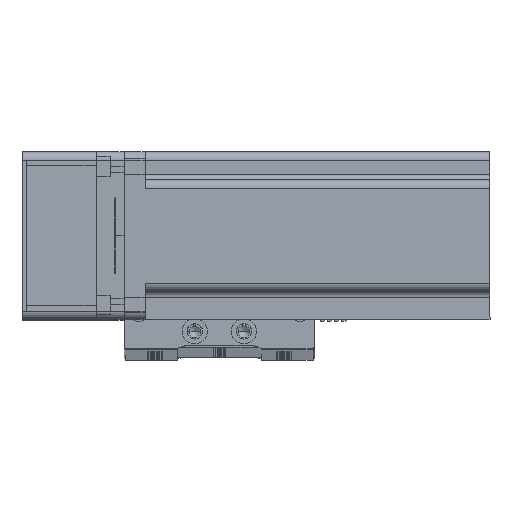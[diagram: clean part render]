
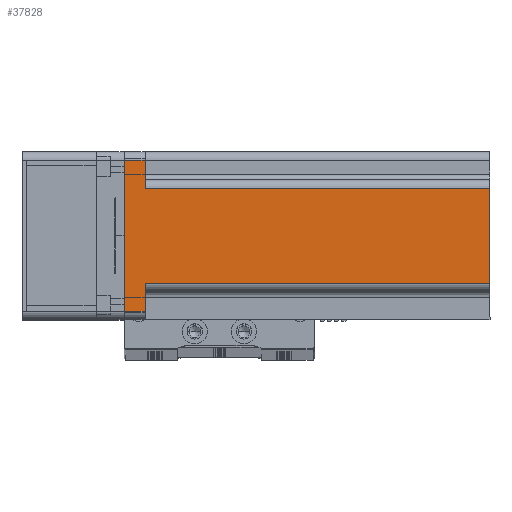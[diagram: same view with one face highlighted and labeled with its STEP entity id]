
A CAD part, top view. The second image highlights one B-rep face of the part: STEP entity #37828.
In plain terms, the highlighted planar face has unit normal (0, 0, 1) as drawn and (0, 1, 0) by its records, which use the part's own axes.
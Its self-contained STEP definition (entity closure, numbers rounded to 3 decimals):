
#1622 = EDGE_CURVE ( 'NONE', #65897, #67307, #57965, .T. ) ;
#1678 = CARTESIAN_POINT ( 'NONE',  ( 27., 30., 130.7 ) ) ;
#3140 = CARTESIAN_POINT ( 'NONE',  ( 17., 30., 7.5 ) ) ;
#3534 = CARTESIAN_POINT ( 'NONE',  ( -17., 30., 130.7 ) ) ;
#5836 = VECTOR ( 'NONE', #56339, 1000. ) ;
#6994 = LINE ( 'NONE', #60181, #21523 ) ;
#9557 = FACE_OUTER_BOUND ( 'NONE', #37642, .T. ) ;
#9770 = CARTESIAN_POINT ( 'NONE',  ( 17., 30., 130.7 ) ) ;
#10775 = LINE ( 'NONE', #57510, #38185 ) ;
#11341 = LINE ( 'NONE', #9770, #53376 ) ;
#11693 = VECTOR ( 'NONE', #41879, 1000. ) ;
#12199 = EDGE_CURVE ( 'NONE', #67307, #25554, #10775, .T. ) ;
#12416 = VERTEX_POINT ( 'NONE', #59836 ) ;
#12562 = ORIENTED_EDGE ( 'NONE', *, *, #37884, .T. ) ;
#13513 = DIRECTION ( 'NONE',  ( -1., 0., 0. ) ) ;
#15535 = VECTOR ( 'NONE', #58417, 1000. ) ;
#17674 = CARTESIAN_POINT ( 'NONE',  ( 30., 30., 130.7 ) ) ;
#18053 = CARTESIAN_POINT ( 'NONE',  ( -27., 30., 7.5 ) ) ;
#18656 = ORIENTED_EDGE ( 'NONE', *, *, #70807, .T. ) ;
#19249 = PLANE ( 'NONE',  #64366 ) ;
#19956 = CARTESIAN_POINT ( 'NONE',  ( -20., 30., 7.5 ) ) ;
#21523 = VECTOR ( 'NONE', #21746, 1000. ) ;
#21746 = DIRECTION ( 'NONE',  ( -1., 0., 0. ) ) ;
#22611 = CARTESIAN_POINT ( 'NONE',  ( 27., 30., 0. ) ) ;
#25024 = CARTESIAN_POINT ( 'NONE',  ( 30., 30., 130.7 ) ) ;
#25554 = VERTEX_POINT ( 'NONE', #18053 ) ;
#30503 = DIRECTION ( 'NONE',  ( 1., 0., 0. ) ) ;
#31794 = LINE ( 'NONE', #19956, #15535 ) ;
#31984 = EDGE_CURVE ( 'NONE', #12416, #39222, #53446, .T. ) ;
#32193 = EDGE_CURVE ( 'NONE', #12416, #62765, #11341, .T. ) ;
#33534 = CARTESIAN_POINT ( 'NONE',  ( -27., 30., 0. ) ) ;
#34075 = ORIENTED_EDGE ( 'NONE', *, *, #12199, .T. ) ;
#37642 = EDGE_LOOP ( 'NONE', ( #12562, #18656, #55957, #61774, #65694, #53366, #52941, #34075 ) ) ;
#37828 = ADVANCED_FACE ( 'NONE', ( #9557 ), #19249, .F. ) ;
#37884 = EDGE_CURVE ( 'NONE', #25554, #63529, #31794, .T. ) ;
#38185 = VECTOR ( 'NONE', #63007, 1000. ) ;
#38831 = VECTOR ( 'NONE', #56337, 1000. ) ;
#39222 = VERTEX_POINT ( 'NONE', #39327 ) ;
#39327 = CARTESIAN_POINT ( 'NONE',  ( -17., 30., 130.7 ) ) ;
#40865 = LINE ( 'NONE', #3534, #11693 ) ;
#41879 = DIRECTION ( 'NONE',  ( 0., 0., 1. ) ) ;
#43330 = VECTOR ( 'NONE', #13513, 1000. ) ;
#45219 = CARTESIAN_POINT ( 'NONE',  ( 27., 30., 7.5 ) ) ;
#46990 = EDGE_CURVE ( 'NONE', #53583, #65897, #64200, .T. ) ;
#48112 = DIRECTION ( 'NONE',  ( 0., 0., -1. ) ) ;
#49042 = CARTESIAN_POINT ( 'NONE',  ( -17., 30., 7.5 ) ) ;
#52941 = ORIENTED_EDGE ( 'NONE', *, *, #1622, .T. ) ;
#53366 = ORIENTED_EDGE ( 'NONE', *, *, #46990, .T. ) ;
#53376 = VECTOR ( 'NONE', #48112, 1000. ) ;
#53446 = LINE ( 'NONE', #17674, #38831 ) ;
#53583 = VERTEX_POINT ( 'NONE', #45219 ) ;
#55957 = ORIENTED_EDGE ( 'NONE', *, *, #31984, .F. ) ;
#56337 = DIRECTION ( 'NONE',  ( -1., 0., 0. ) ) ;
#56339 = DIRECTION ( 'NONE',  ( 0., 0., -1. ) ) ;
#57510 = CARTESIAN_POINT ( 'NONE',  ( -27., 30., 130.7 ) ) ;
#57965 = LINE ( 'NONE', #68284, #43330 ) ;
#58417 = DIRECTION ( 'NONE',  ( 1., 0., 0. ) ) ;
#59836 = CARTESIAN_POINT ( 'NONE',  ( 17., 30., 130.7 ) ) ;
#60181 = CARTESIAN_POINT ( 'NONE',  ( 20., 30., 7.5 ) ) ;
#61347 = EDGE_CURVE ( 'NONE', #53583, #62765, #6994, .T. ) ;
#61774 = ORIENTED_EDGE ( 'NONE', *, *, #32193, .T. ) ;
#62765 = VERTEX_POINT ( 'NONE', #3140 ) ;
#63007 = DIRECTION ( 'NONE',  ( 0., 0., 1. ) ) ;
#63440 = DIRECTION ( 'NONE',  ( 0., -1., 0. ) ) ;
#63529 = VERTEX_POINT ( 'NONE', #49042 ) ;
#64200 = LINE ( 'NONE', #1678, #5836 ) ;
#64366 = AXIS2_PLACEMENT_3D ( 'NONE', #25024, #63440, #30503 ) ;
#65694 = ORIENTED_EDGE ( 'NONE', *, *, #61347, .F. ) ;
#65897 = VERTEX_POINT ( 'NONE', #22611 ) ;
#67307 = VERTEX_POINT ( 'NONE', #33534 ) ;
#68284 = CARTESIAN_POINT ( 'NONE',  ( 30., 30., 0. ) ) ;
#70807 = EDGE_CURVE ( 'NONE', #63529, #39222, #40865, .T. ) ;
